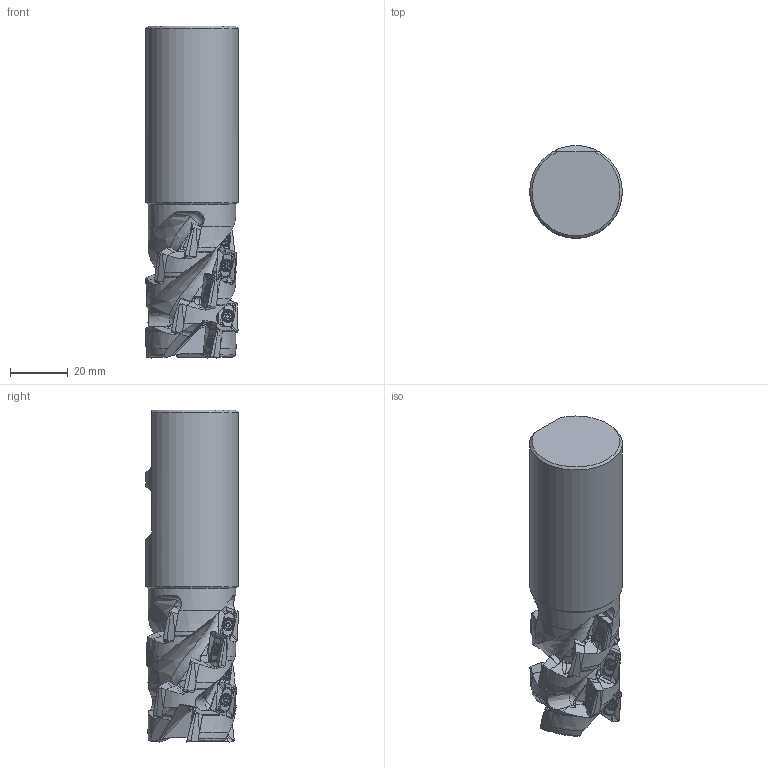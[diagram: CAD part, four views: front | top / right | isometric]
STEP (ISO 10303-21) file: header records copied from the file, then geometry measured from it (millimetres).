
FILE_DESCRIPTION(/* description */ (''),/* implementation_level */ '2;1');
FILE_NAME(/* name */ 'M1H32J03R54B32ED10C15_GTM.stp',/* time_stamp */ '2013-07-23T18:51:19+01:00',/* author */ (''),/* organization */ (''),/* preprocessor_version */ 'ST-DEVELOPER v11',/* originating_system */ 'SIEMENS UGS NX 6.0',/* authorisation */ '');
FILE_SCHEMA (('AUTOMOTIVE_DESIGN { 1 0 10303 214 1 1 1 1 }'));
Products named in the file (1): M1H32J03R54B32ED10C15_GTM
Bounding box: 32 x 32 x 114.73 mm (x, y, z)
Volume: 2871 mm3; surface area: 18603.5 mm2
Topology: 30 solids, 31 shells, 2661 faces, 7152 edges, 4515 vertices
Faces by surface type: cylinder 920, bspline 687, plane 614, cone 166, torus 114, sphere 81, revolution 79
Full cylindrical faces by diameter (mm): 2.2 x15, 2.5 x15, 3 x15, 3.4 x15, 30.121 x1, 32 x1
Entity records: 99388 total; most frequent: CARTESIAN_POINT 38576, ORIENTED_EDGE 13630, DIRECTION 11558, EDGE_CURVE 6815, AXIS2_PLACEMENT_3D 4722, VERTEX_POINT 4403, EDGE_LOOP 2880, ADVANCED_FACE 2662
